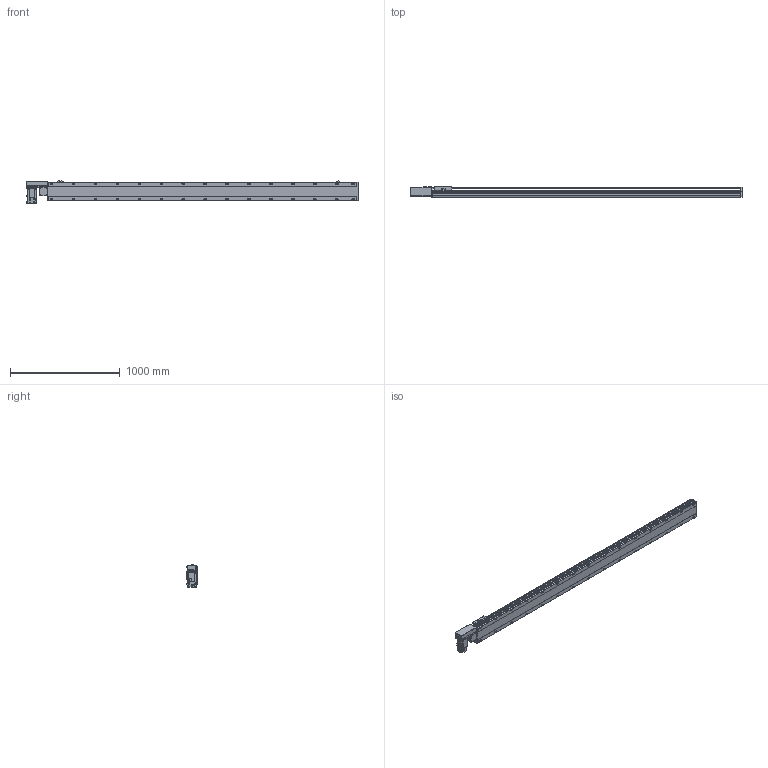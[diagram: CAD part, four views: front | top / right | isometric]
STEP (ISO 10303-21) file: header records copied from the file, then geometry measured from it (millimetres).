
FILE_DESCRIPTION( ( 'STEP AP214' ), '1' );
FILE_NAME( 'x:/temp/worker_4/temp/exporttempdir_2248_296_gzmC5/format_0/PBS170-P40-S2550-R-T75-C1-N(0).stp', '2022-06-07T07:32:40', ( 'License CC BY-ND 4.0' ), ( 'CADENAS' ), ' ', 'PARTsolutions', ' ' );
FILE_SCHEMA( ( 'AUTOMOTIVE_DESIGN { 1 0 10303 214 1 1 1 1 }' ) );
Length unit declared in the file: millimetre
Products named in the file (7): PBS170-P40-S2550-R-T75-C1-N(0); _PBS170-S2550()_body; _PBS170T-R_motors; _T75-p1; _PBS170_sliser; _PBS170_plant; _PBS170_sensor
Assembly tree (8 placements, depth 2):
  PBS170-P40-S2550-R-T75-C1-N(0)
    _PBS170-S2550()_body
    _PBS170T-R_motors
    _T75-p1
    _PBS170_sliser
    _PBS170_plant
    _PBS170_sensor  x3
Bounding box: 3028 x 97 x 205.3 mm (x, y, z)
Volume: 22035219.2 mm3; surface area: 2772426.8 mm2
Topology: 8 solids, 8 shells, 1194 faces, 3155 edges, 2056 vertices
Faces by surface type: plane 729, cylinder 395, cone 60, sphere 8, torus 2
Full cylindrical faces by diameter (mm): 3.242 x4, 4 x2, 4.4 x4, 4.5 x6, 4.917 x4, 6 x9, 6.647 x38, 7 x2, 7.5 x4, 8 x8, 8.5 x30, 10 x4, 10.5 x30, 11 x2, 30 x2, 40 x1, 70 x1
Entity records: 44234 total; most frequent: CARTESIAN_POINT 7397, DIRECTION 5790, ORIENTED_EDGE 5448, EDGE_CURVE 2724, AXIS2_PLACEMENT_3D 2047, VERTEX_POINT 1898, LINE 1696, VECTOR 1696
